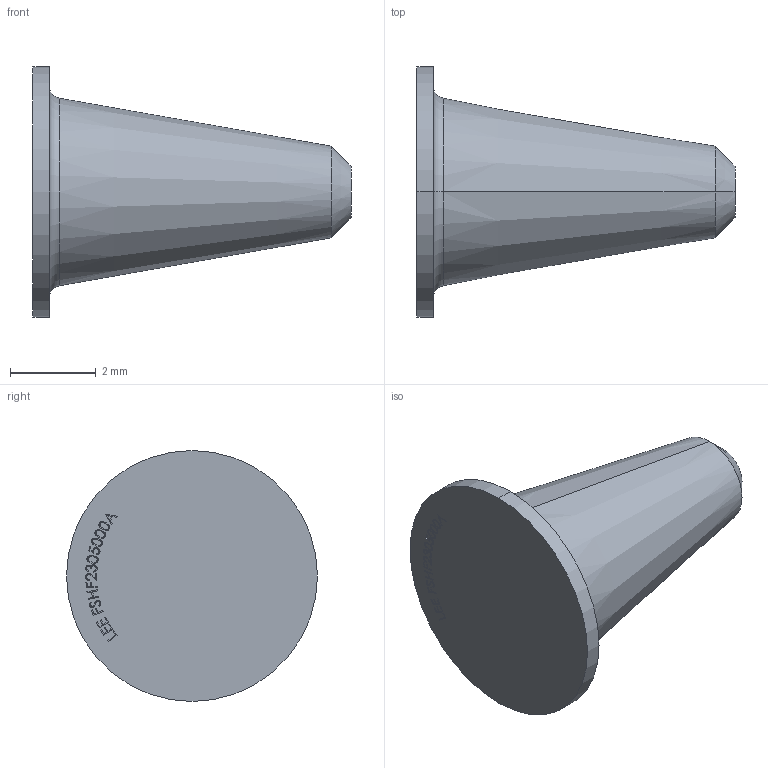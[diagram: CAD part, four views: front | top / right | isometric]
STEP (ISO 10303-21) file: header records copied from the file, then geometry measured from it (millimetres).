
FILE_DESCRIPTION (( 'STEP AP214' ), '1' );
FILE_NAME ('3DFSHF2305000A.STEP', '2024-05-24T14:41:09', ( '' ), ( '' ), 'SwSTEP 2.0', 'SolidWorks 2023', '' );
FILE_SCHEMA (( 'AUTOMOTIVE_DESIGN' ));
Length unit declared in the file: inch
Products named in the file (1): 3DFSHF2305000A
Bounding box: 7.4 x 5.84 x 5.84 mm (x, y, z)
Volume: 69.4 mm3; surface area: 117.4 mm2
Topology: 1 solids, 1 shells, 200 faces, 527 edges, 350 vertices
Faces by surface type: plane 113, bspline 79, cone 4, cylinder 2, torus 2
Entity records: 11150 total; most frequent: CARTESIAN_POINT 6701, ORIENTED_EDGE 1054, DIRECTION 627, EDGE_CURVE 527, VECTOR 355, LINE 355, VERTEX_POINT 350, EDGE_LOOP 221
